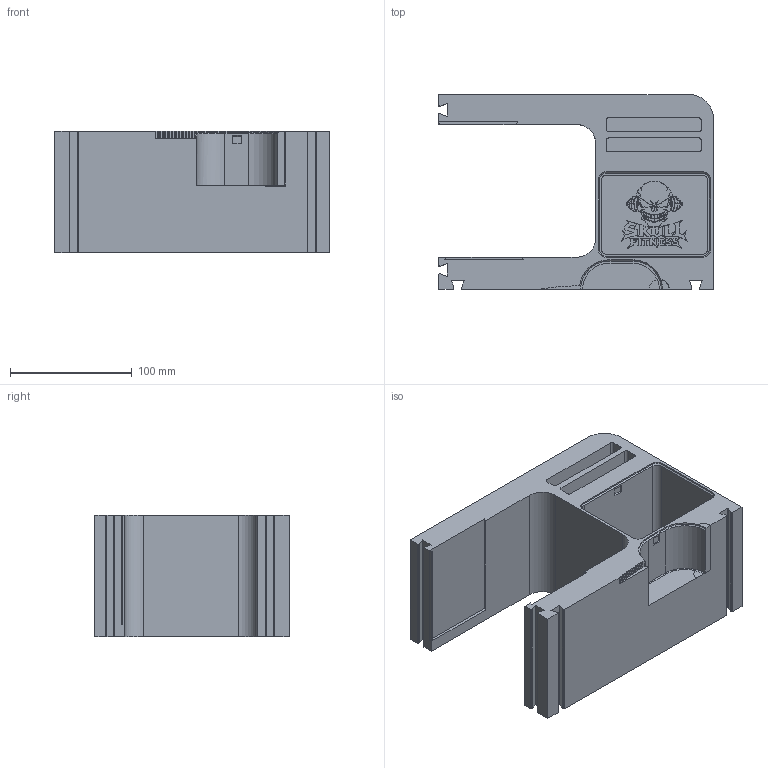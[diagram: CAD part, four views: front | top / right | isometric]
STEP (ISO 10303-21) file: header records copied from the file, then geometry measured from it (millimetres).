
FILE_DESCRIPTION(('Open CASCADE Model'),'2;1');
FILE_NAME('Open CASCADE Shape Model','2026-11-01T05:34:05',('Author'),( 'Open CASCADE'),'Open CASCADE STEP processor 7.8','Open CASCADE 7.8' ,'Unknown');
FILE_SCHEMA(('AUTOMOTIVE_DESIGN { 1 0 10303 214 1 1 1 1 }'));
Products named in the file (1): Open CASCADE STEP translator 7.8 21
Bounding box: 225.86 x 159.98 x 100 mm (x, y, z)
Volume: 1606505.3 mm3; surface area: 189024.5 mm2
Topology: 1 solids, 1 shells, 2097 faces, 6091 edges, 4057 vertices
Faces by surface type: plane 2048, cylinder 43, cone 6
Entity records: 147124 total; most frequent: CARTESIAN_POINT 24883, DIRECTION 22463, LINE 18030, VECTOR 18030, ORIENTED_EDGE 12182, PCURVE 12182, DEFINITIONAL_REPRESENTATION 12182, EDGE_CURVE 6091
